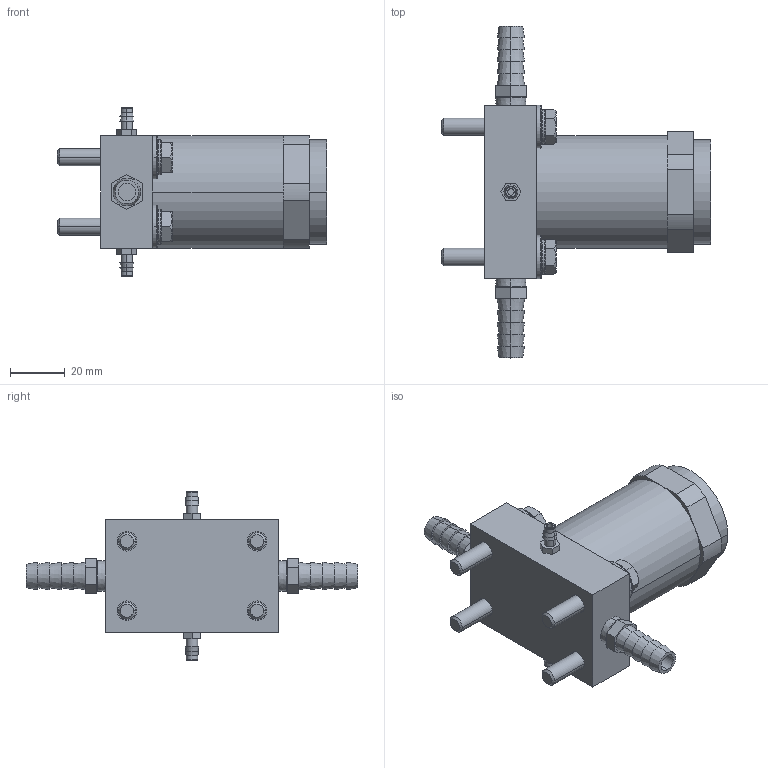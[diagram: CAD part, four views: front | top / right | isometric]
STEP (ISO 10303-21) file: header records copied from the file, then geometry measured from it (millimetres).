
FILE_DESCRIPTION((''),'2;1');
FILE_NAME('UAR4_ASM','2017-08-24T',('jennifer.elliott'),('CenterLine (Windsor) Ltd - Automation Components Division'),'PRO/ENGINEER BY PARAMETRIC TECHNOLOGY CORPORATION, 2015030','PRO/ENGINEER BY PARAMETRIC TECHNOLOGY CORPORATION, 2015030','');
FILE_SCHEMA(('AUTOMOTIVE_DESIGN { 1 0 10303 214 1 1 1 1 }'));
Length unit declared in the file: inch
Products named in the file (18): TMP_DWG-3DSOLID_36; PRT0001; PRT0002; PRT0003; PRT0004; PRT0005; PRT0006; PRT0007; PRT0008; PRT0009; PRT0010; ASM0001_ASM; PRT0011; PRT0012; PRT0013; PRT0014; PRT0015; UAR4_ASM
Assembly tree (17 placements, depth 3):
  UAR4_ASM
    TMP_DWG-3DSOLID_36
    PRT0001
    PRT0002
    PRT0003
    PRT0004
    PRT0005
    PRT0006
    ASM0001_ASM
      PRT0007
      PRT0008
      PRT0009
      PRT0010
    PRT0011
    PRT0012
    PRT0013
    PRT0014
    PRT0015
Bounding box: 98.42 x 121.41 x 61.9 mm (x, y, z)
Volume: 142525.9 mm3; surface area: 37453.2 mm2
Topology: 16 solids, 16 shells, 288 faces, 676 edges, 444 vertices
Faces by surface type: plane 126, cylinder 66, cone 64, torus 32
Entity records: 9830 total; most frequent: CARTESIAN_POINT 1948, DIRECTION 1562, ORIENTED_EDGE 1352, EDGE_CURVE 676, AXIS2_PLACEMENT_3D 647, VERTEX_POINT 444, EDGE_LOOP 336, CIRCLE 320
